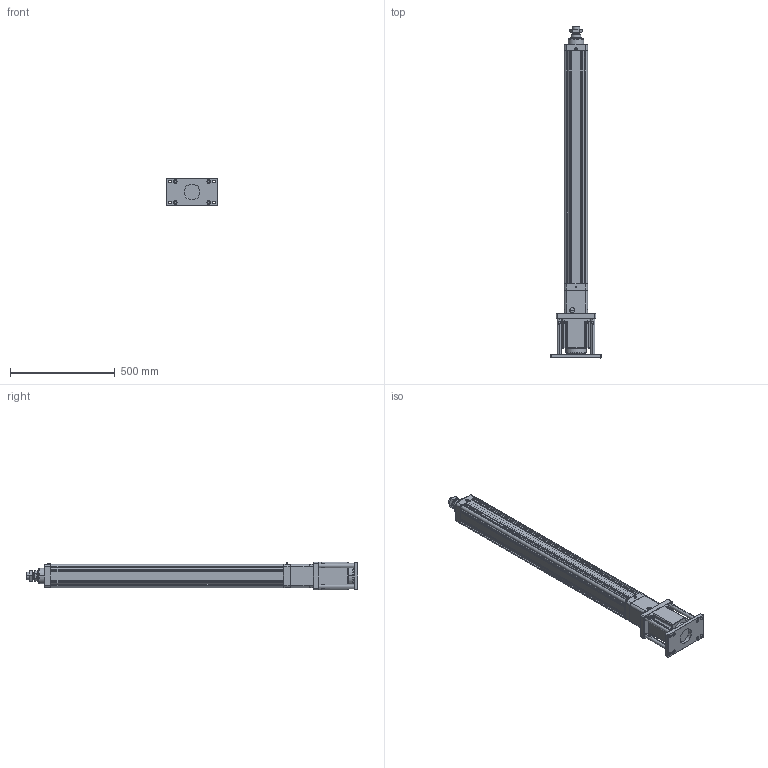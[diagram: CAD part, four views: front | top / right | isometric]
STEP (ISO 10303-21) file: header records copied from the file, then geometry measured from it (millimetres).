
FILE_DESCRIPTION((''),'2;1');
FILE_NAME('HE100-D-P_ASM','2020-04-21T',('ASUS20200'),(''),'CREO PARAMETRIC BY PTC INC, 2014190','CREO PARAMETRIC BY PTC INC, 2014190','');
FILE_SCHEMA(('CONFIG_CONTROL_DESIGN'));
Length unit declared in the file: millimetre
Products named in the file (23): HE100-D-P-001-X1; HE100-D-P-002-X1; HE100-D-P-003-X1; 30305J; JDB506030; SLM-01; YZ-M6X1; HE100-100-D-P-X1_ASM; HE100-D-009-X1; HE100-D-010-X1-130N; M8X20; 130ST-M10010; TD-8; M8X40; SKT-20; HE100-D-P-005-X1; HE100-D-P-004-X1; HE80-D-P-008-X1; LGLM-M10-25; HE100-FB-LG; F-HE100FB; M10X30; HE100-D-P_ASM
Assembly tree (46 placements, depth 3):
  HE100-D-P_ASM
    HE100-100-D-P-X1_ASM
      HE100-D-P-001-X1
      HE100-D-P-002-X1
      HE100-D-P-003-X1
      30305J  x2
      JDB506030
      SLM-01
      YZ-M6X1
    HE100-D-009-X1
    HE100-D-010-X1-130N
    M8X20  x4
    130ST-M10010
    TD-8  x4
    M8X40  x4
    SKT-20  x2
    HE100-D-P-005-X1
    HE100-D-P-004-X1
    HE80-D-P-008-X1
    LGLM-M10-25  x4
    HE100-FB-LG  x4
    F-HE100FB
    M10X30  x8
Bounding box: 240 x 1582 x 130 mm (x, y, z)
Volume: 8725898.3 mm3; surface area: 2104312.1 mm2
Topology: 45 solids, 76 shells, 2001 faces, 4608 edges, 2809 vertices
Faces by surface type: plane 669, cylinder 601, cone 583, torus 114, sphere 30, bspline 4
Entity records: 42449 total; most frequent: CARTESIAN_POINT 7989, DIRECTION 7739, ORIENTED_EDGE 6538, EDGE_CURVE 3316, AXIS2_PLACEMENT_3D 3036, VERTEX_POINT 2023, EDGE_LOOP 1695, VECTOR 1667
